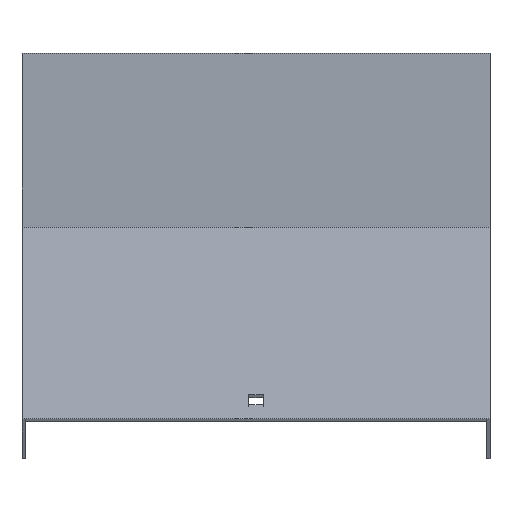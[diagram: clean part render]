
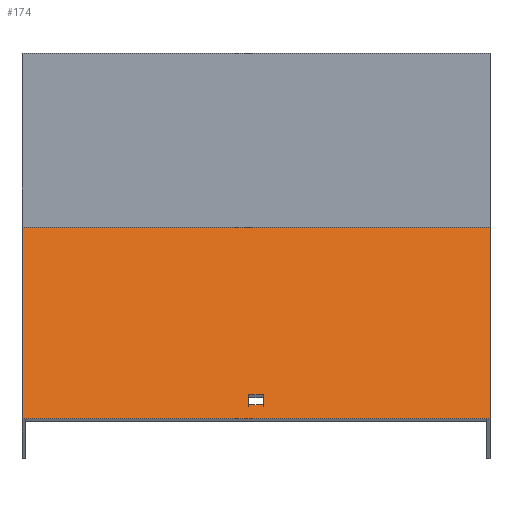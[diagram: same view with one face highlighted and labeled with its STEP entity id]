
A CAD part, top view. The second image highlights one B-rep face of the part: STEP entity #174.
In plain terms, the highlighted planar face has unit normal (0, 0.866, 0.5).
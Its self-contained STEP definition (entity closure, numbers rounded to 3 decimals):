
#4 = VECTOR ( 'NONE', #97, 1000. ) ;
#6 = LINE ( 'NONE', #800, #847 ) ;
#8 = CARTESIAN_POINT ( 'NONE',  ( 101.5, -139.219, 594.215 ) ) ;
#27 = CARTESIAN_POINT ( 'NONE',  ( 3.25, -128.719, 576.028 ) ) ;
#50 = LINE ( 'NONE', #518, #515 ) ;
#66 = LINE ( 'NONE', #529, #147 ) ;
#70 = ORIENTED_EDGE ( 'NONE', *, *, #681, .T. ) ;
#71 = PLANE ( 'NONE',  #336 ) ;
#74 = ORIENTED_EDGE ( 'NONE', *, *, #629, .T. ) ;
#97 = DIRECTION ( 'NONE',  ( -1., 0., 0. ) ) ;
#126 = ORIENTED_EDGE ( 'NONE', *, *, #538, .F. ) ;
#138 = DIRECTION ( 'NONE',  ( 0., -0.5, 0.866 ) ) ;
#139 = VERTEX_POINT ( 'NONE', #27 ) ;
#144 = FACE_OUTER_BOUND ( 'NONE', #535, .T. ) ;
#147 = VECTOR ( 'NONE', #138, 1000. ) ;
#174 = ADVANCED_FACE ( 'NONE', ( #283, #144 ), #71, .F. ) ;
#187 = CARTESIAN_POINT ( 'NONE',  ( -3.25, -128.719, 576.028 ) ) ;
#197 = EDGE_CURVE ( 'NONE', #139, #389, #601, .T. ) ;
#214 = LINE ( 'NONE', #8, #323 ) ;
#234 = DIRECTION ( 'NONE',  ( -1., 0., 0. ) ) ;
#248 = CARTESIAN_POINT ( 'NONE',  ( 3.25, -133.219, 583.822 ) ) ;
#271 = DIRECTION ( 'NONE',  ( 0., -0.866, -0.5 ) ) ;
#276 = CARTESIAN_POINT ( 'NONE',  ( 3.25, -57.219, 452.187 ) ) ;
#283 = FACE_BOUND ( 'NONE', #647, .T. ) ;
#316 = VERTEX_POINT ( 'NONE', #361 ) ;
#323 = VECTOR ( 'NONE', #673, 1000. ) ;
#336 = AXIS2_PLACEMENT_3D ( 'NONE', #485, #271, #798 ) ;
#357 = VECTOR ( 'NONE', #667, 1000. ) ;
#361 = CARTESIAN_POINT ( 'NONE',  ( 101.5, -55.903, 449.906 ) ) ;
#369 = EDGE_CURVE ( 'NONE', #692, #797, #50, .T. ) ;
#383 = VECTOR ( 'NONE', #539, 1000. ) ;
#387 = VERTEX_POINT ( 'NONE', #187 ) ;
#389 = VERTEX_POINT ( 'NONE', #248 ) ;
#403 = VERTEX_POINT ( 'NONE', #450 ) ;
#407 = ORIENTED_EDGE ( 'NONE', *, *, #837, .T. ) ;
#422 = CARTESIAN_POINT ( 'NONE',  ( 101.5, -133.219, 583.822 ) ) ;
#444 = DIRECTION ( 'NONE',  ( 0., -0.5, 0.866 ) ) ;
#448 = ORIENTED_EDGE ( 'NONE', *, *, #369, .T. ) ;
#450 = CARTESIAN_POINT ( 'NONE',  ( 101.5, -139.219, 594.215 ) ) ;
#483 = DIRECTION ( 'NONE',  ( 1., 0., 0. ) ) ;
#485 = CARTESIAN_POINT ( 'NONE',  ( 101.5, -57.219, 452.187 ) ) ;
#490 = CARTESIAN_POINT ( 'NONE',  ( -3.25, -133.219, 583.822 ) ) ;
#498 = LINE ( 'NONE', #422, #4 ) ;
#515 = VECTOR ( 'NONE', #444, 1000. ) ;
#517 = VECTOR ( 'NONE', #234, 1000. ) ;
#518 = CARTESIAN_POINT ( 'NONE',  ( -101.5, -57.219, 452.187 ) ) ;
#524 = ORIENTED_EDGE ( 'NONE', *, *, #585, .T. ) ;
#529 = CARTESIAN_POINT ( 'NONE',  ( 101.5, -57.219, 452.187 ) ) ;
#534 = CARTESIAN_POINT ( 'NONE',  ( -3.25, -57.219, 452.187 ) ) ;
#535 = EDGE_LOOP ( 'NONE', ( #448, #740, #126, #74 ) ) ;
#538 = EDGE_CURVE ( 'NONE', #316, #403, #66, .T. ) ;
#539 = DIRECTION ( 'NONE',  ( 0., -0.5, 0.866 ) ) ;
#585 = EDGE_CURVE ( 'NONE', #387, #139, #6, .T. ) ;
#601 = LINE ( 'NONE', #276, #383 ) ;
#612 = LINE ( 'NONE', #534, #357 ) ;
#629 = EDGE_CURVE ( 'NONE', #316, #692, #806, .T. ) ;
#647 = EDGE_LOOP ( 'NONE', ( #524, #702, #70, #407 ) ) ;
#667 = DIRECTION ( 'NONE',  ( 0., 0.5, -0.866 ) ) ;
#673 = DIRECTION ( 'NONE',  ( -1., 0., 0. ) ) ;
#681 = EDGE_CURVE ( 'NONE', #389, #819, #498, .T. ) ;
#692 = VERTEX_POINT ( 'NONE', #751 ) ;
#702 = ORIENTED_EDGE ( 'NONE', *, *, #197, .T. ) ;
#740 = ORIENTED_EDGE ( 'NONE', *, *, #831, .F. ) ;
#741 = CARTESIAN_POINT ( 'NONE',  ( 101.5, -55.903, 449.906 ) ) ;
#751 = CARTESIAN_POINT ( 'NONE',  ( -101.5, -55.903, 449.906 ) ) ;
#794 = CARTESIAN_POINT ( 'NONE',  ( -101.5, -139.219, 594.215 ) ) ;
#797 = VERTEX_POINT ( 'NONE', #794 ) ;
#798 = DIRECTION ( 'NONE',  ( 0., 0.5, -0.866 ) ) ;
#800 = CARTESIAN_POINT ( 'NONE',  ( 101.5, -128.719, 576.028 ) ) ;
#806 = LINE ( 'NONE', #741, #517 ) ;
#819 = VERTEX_POINT ( 'NONE', #490 ) ;
#831 = EDGE_CURVE ( 'NONE', #403, #797, #214, .T. ) ;
#837 = EDGE_CURVE ( 'NONE', #819, #387, #612, .T. ) ;
#847 = VECTOR ( 'NONE', #483, 1000. ) ;
